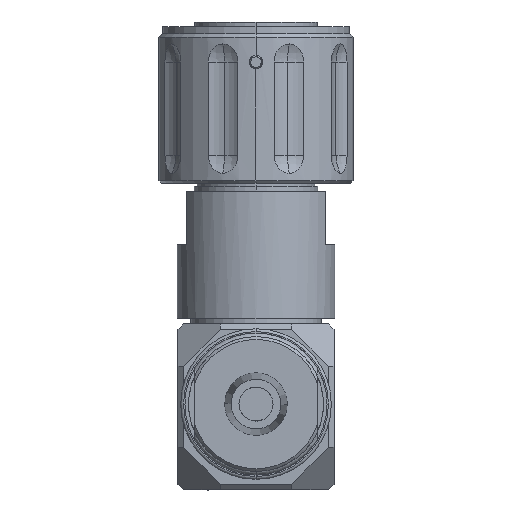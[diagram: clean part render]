
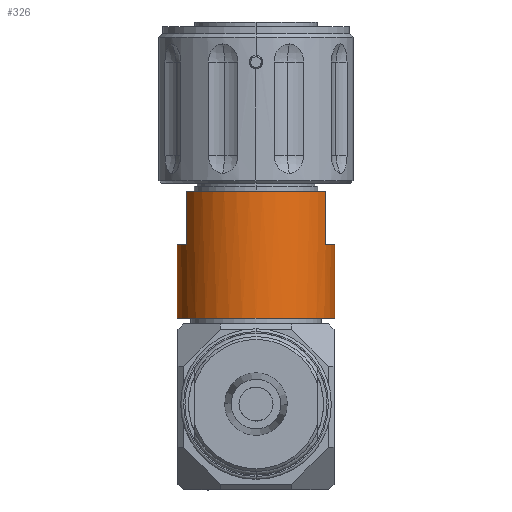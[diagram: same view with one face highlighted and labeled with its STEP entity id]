
A CAD part, front view. The second image highlights one B-rep face of the part: STEP entity #326.
In plain terms, the highlighted cylindrical face has radius 14.097 mm (diameter 28.194 mm), a partial arc.
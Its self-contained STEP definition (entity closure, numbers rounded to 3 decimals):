
#233 = AXIS2_PLACEMENT_3D ( 'NONE', #10850, #9995, #846 ) ;
#326 = ADVANCED_FACE ( 'NONE', ( #3796 ), #13015, .T. ) ;
#341 = CIRCLE ( 'NONE', #7833, 14.097 ) ;
#665 = EDGE_CURVE ( 'NONE', #10628, #10811, #1185, .T. ) ;
#821 = EDGE_CURVE ( 'NONE', #4031, #10628, #10639, .T. ) ;
#846 = DIRECTION ( 'NONE',  ( 1., 0., 0. ) ) ;
#907 = AXIS2_PLACEMENT_3D ( 'NONE', #1847, #12017, #8247 ) ;
#974 = VERTEX_POINT ( 'NONE', #1512 ) ;
#983 = DIRECTION ( 'NONE',  ( 0., 0., -1. ) ) ;
#1006 = ORIENTED_EDGE ( 'NONE', *, *, #10959, .T. ) ;
#1046 = DIRECTION ( 'NONE',  ( 1., 0., 0. ) ) ;
#1143 = DIRECTION ( 'NONE',  ( 0., 0., -1. ) ) ;
#1185 = LINE ( 'NONE', #5266, #3006 ) ;
#1345 = DIRECTION ( 'NONE',  ( 0., 0., 1. ) ) ;
#1512 = CARTESIAN_POINT ( 'NONE',  ( -12.446, -6.62, -30.328 ) ) ;
#1847 = CARTESIAN_POINT ( 'NONE',  ( 0., 0., -53.01 ) ) ;
#1913 = VERTEX_POINT ( 'NONE', #6289 ) ;
#1975 = DIRECTION ( 'NONE',  ( 0., 0., -1. ) ) ;
#2058 = DIRECTION ( 'NONE',  ( 0., 0., 1. ) ) ;
#2957 = EDGE_CURVE ( 'NONE', #1913, #4031, #4746, .T. ) ;
#3006 = VECTOR ( 'NONE', #983, 1000. ) ;
#3490 = DIRECTION ( 'NONE',  ( 0., 0., 1. ) ) ;
#3778 = CARTESIAN_POINT ( 'NONE',  ( 0., 0., -39.853 ) ) ;
#3796 = FACE_OUTER_BOUND ( 'NONE', #11394, .T. ) ;
#3945 = DIRECTION ( 'NONE',  ( 0., 0., -1. ) ) ;
#4031 = VERTEX_POINT ( 'NONE', #11490 ) ;
#4287 = LINE ( 'NONE', #10166, #5408 ) ;
#4365 = CARTESIAN_POINT ( 'NONE',  ( -12.446, -6.62, -39.853 ) ) ;
#4746 = LINE ( 'NONE', #12845, #6461 ) ;
#5266 = CARTESIAN_POINT ( 'NONE',  ( 14.097, 0., -30.328 ) ) ;
#5368 = VERTEX_POINT ( 'NONE', #5429 ) ;
#5408 = VECTOR ( 'NONE', #1143, 1000. ) ;
#5429 = CARTESIAN_POINT ( 'NONE',  ( -14.097, 0., -53.01 ) ) ;
#5830 = VECTOR ( 'NONE', #1345, 1000. ) ;
#5926 = CIRCLE ( 'NONE', #7602, 14.097 ) ;
#6058 = DIRECTION ( 'NONE',  ( 1., 0., 0. ) ) ;
#6178 = ORIENTED_EDGE ( 'NONE', *, *, #2957, .F. ) ;
#6289 = CARTESIAN_POINT ( 'NONE',  ( 12.446, -6.62, -30.328 ) ) ;
#6461 = VECTOR ( 'NONE', #3945, 1000. ) ;
#6667 = CIRCLE ( 'NONE', #907, 14.097 ) ;
#6741 = ORIENTED_EDGE ( 'NONE', *, *, #821, .F. ) ;
#6808 = ORIENTED_EDGE ( 'NONE', *, *, #9252, .F. ) ;
#6879 = EDGE_CURVE ( 'NONE', #1913, #974, #341, .T. ) ;
#6883 = CARTESIAN_POINT ( 'NONE',  ( -14.097, 0., -39.853 ) ) ;
#7149 = CARTESIAN_POINT ( 'NONE',  ( 0., 0., -39.853 ) ) ;
#7602 = AXIS2_PLACEMENT_3D ( 'NONE', #3778, #3490, #7856 ) ;
#7630 = VERTEX_POINT ( 'NONE', #6883 ) ;
#7775 = EDGE_CURVE ( 'NONE', #7630, #8079, #5926, .T. ) ;
#7833 = AXIS2_PLACEMENT_3D ( 'NONE', #9924, #1975, #6058 ) ;
#7856 = DIRECTION ( 'NONE',  ( 0., 1., 0. ) ) ;
#8042 = CARTESIAN_POINT ( 'NONE',  ( 14.097, 0., -53.01 ) ) ;
#8079 = VERTEX_POINT ( 'NONE', #4365 ) ;
#8247 = DIRECTION ( 'NONE',  ( 1., 0., 0. ) ) ;
#9252 = EDGE_CURVE ( 'NONE', #10811, #5368, #6667, .T. ) ;
#9369 = CARTESIAN_POINT ( 'NONE',  ( -12.446, -6.62, -30.328 ) ) ;
#9409 = ORIENTED_EDGE ( 'NONE', *, *, #9460, .F. ) ;
#9422 = ORIENTED_EDGE ( 'NONE', *, *, #6879, .T. ) ;
#9460 = EDGE_CURVE ( 'NONE', #8079, #974, #9547, .T. ) ;
#9547 = LINE ( 'NONE', #9369, #5830 ) ;
#9924 = CARTESIAN_POINT ( 'NONE',  ( 0., 0., -30.328 ) ) ;
#9995 = DIRECTION ( 'NONE',  ( 0., 0., -1. ) ) ;
#10166 = CARTESIAN_POINT ( 'NONE',  ( -14.097, 0., -30.328 ) ) ;
#10242 = AXIS2_PLACEMENT_3D ( 'NONE', #7149, #2058, #1046 ) ;
#10628 = VERTEX_POINT ( 'NONE', #11529 ) ;
#10639 = CIRCLE ( 'NONE', #10242, 14.097 ) ;
#10811 = VERTEX_POINT ( 'NONE', #8042 ) ;
#10850 = CARTESIAN_POINT ( 'NONE',  ( 0., 0., -30.328 ) ) ;
#10959 = EDGE_CURVE ( 'NONE', #7630, #5368, #4287, .T. ) ;
#11394 = EDGE_LOOP ( 'NONE', ( #11964, #1006, #6808, #11614, #6741, #6178, #9422, #9409 ) ) ;
#11490 = CARTESIAN_POINT ( 'NONE',  ( 12.446, -6.62, -39.853 ) ) ;
#11529 = CARTESIAN_POINT ( 'NONE',  ( 14.097, 0., -39.853 ) ) ;
#11614 = ORIENTED_EDGE ( 'NONE', *, *, #665, .F. ) ;
#11964 = ORIENTED_EDGE ( 'NONE', *, *, #7775, .F. ) ;
#12017 = DIRECTION ( 'NONE',  ( 0., 0., -1. ) ) ;
#12845 = CARTESIAN_POINT ( 'NONE',  ( 12.446, -6.62, -30.328 ) ) ;
#13015 = CYLINDRICAL_SURFACE ( 'NONE', #233, 14.097 ) ;
